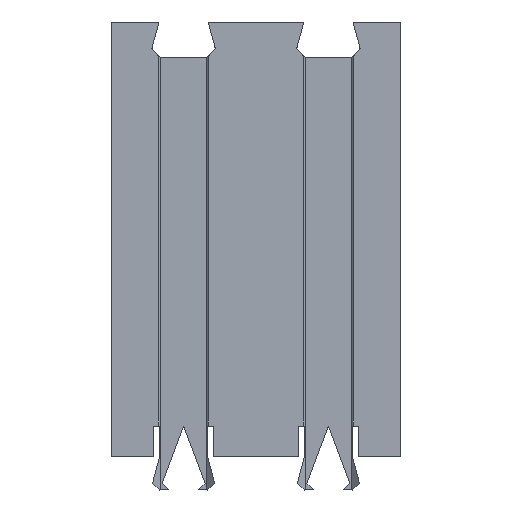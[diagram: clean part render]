
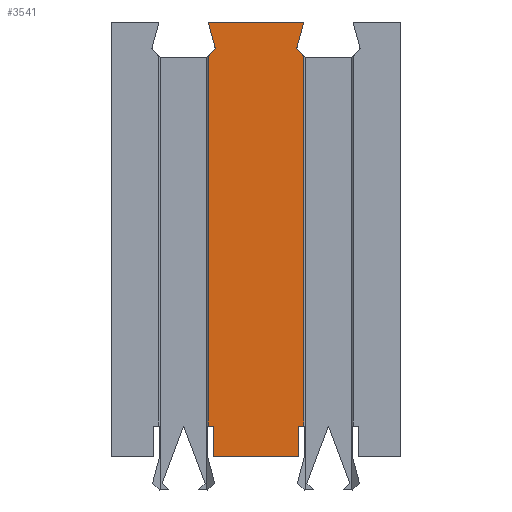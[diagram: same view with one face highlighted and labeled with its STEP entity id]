
A CAD part, top view. The second image highlights one B-rep face of the part: STEP entity #3541.
In plain terms, the highlighted planar face has unit normal (0, 0, 1).
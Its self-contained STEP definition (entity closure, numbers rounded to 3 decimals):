
#205=FACE_OUTER_BOUND('',#409,.T.);
#409=EDGE_LOOP('',(#3064,#3065,#3066,#3067,#3068,#3069,#3070,#3071,#3072,
#3073,#3074,#3075));
#631=LINE('',#5074,#1119);
#648=LINE('',#5107,#1136);
#653=LINE('',#5115,#1141);
#656=LINE('',#5122,#1144);
#658=LINE('',#5125,#1146);
#748=LINE('',#5310,#1236);
#877=LINE('',#5563,#1365);
#892=LINE('',#5592,#1380);
#896=LINE('',#5600,#1384);
#899=LINE('',#5606,#1387);
#900=LINE('',#5610,#1388);
#901=LINE('',#5611,#1389);
#1119=VECTOR('',#4114,10.);
#1136=VECTOR('',#4147,10.);
#1141=VECTOR('',#4158,10.);
#1144=VECTOR('',#4167,10.);
#1146=VECTOR('',#4171,10.);
#1236=VECTOR('',#4345,10.);
#1365=VECTOR('',#4568,10.);
#1380=VECTOR('',#4597,10.);
#1384=VECTOR('',#4605,10.);
#1387=VECTOR('',#4614,10.);
#1388=VECTOR('',#4619,10.);
#1389=VECTOR('',#4620,10.);
#1529=VERTEX_POINT('',#5060);
#1534=VERTEX_POINT('',#5071);
#1535=VERTEX_POINT('',#5073);
#1542=VERTEX_POINT('',#5104);
#1543=VERTEX_POINT('',#5106);
#1544=VERTEX_POINT('',#5121);
#1597=VERTEX_POINT('',#5309);
#1673=VERTEX_POINT('',#5560);
#1674=VERTEX_POINT('',#5562);
#1681=VERTEX_POINT('',#5590);
#1683=VERTEX_POINT('',#5598);
#1684=VERTEX_POINT('',#5609);
#1893=EDGE_CURVE('',#1534,#1535,#631,.T.);
#1910=EDGE_CURVE('',#1542,#1543,#648,.T.);
#1915=EDGE_CURVE('',#1543,#1534,#653,.T.);
#1918=EDGE_CURVE('',#1535,#1544,#656,.T.);
#1920=EDGE_CURVE('',#1544,#1529,#658,.T.);
#2010=EDGE_CURVE('',#1597,#1529,#748,.T.);
#2139=EDGE_CURVE('',#1674,#1673,#877,.T.);
#2154=EDGE_CURVE('',#1681,#1542,#892,.T.);
#2158=EDGE_CURVE('',#1681,#1683,#896,.T.);
#2161=EDGE_CURVE('',#1683,#1674,#899,.T.);
#2162=EDGE_CURVE('',#1673,#1684,#900,.T.);
#2163=EDGE_CURVE('',#1684,#1597,#901,.T.);
#3064=ORIENTED_EDGE('',*,*,#2139,.T.);
#3065=ORIENTED_EDGE('',*,*,#2162,.T.);
#3066=ORIENTED_EDGE('',*,*,#2163,.T.);
#3067=ORIENTED_EDGE('',*,*,#2010,.T.);
#3068=ORIENTED_EDGE('',*,*,#1920,.F.);
#3069=ORIENTED_EDGE('',*,*,#1918,.F.);
#3070=ORIENTED_EDGE('',*,*,#1893,.F.);
#3071=ORIENTED_EDGE('',*,*,#1915,.F.);
#3072=ORIENTED_EDGE('',*,*,#1910,.F.);
#3073=ORIENTED_EDGE('',*,*,#2154,.F.);
#3074=ORIENTED_EDGE('',*,*,#2158,.T.);
#3075=ORIENTED_EDGE('',*,*,#2161,.T.);
#3338=PLANE('',#3746);
#3541=ADVANCED_FACE('',(#205),#3338,.T.);
#3746=AXIS2_PLACEMENT_3D('',#5608,#4617,#4618);
#4114=DIRECTION('',(0.,1.,0.));
#4147=DIRECTION('',(0.,1.,0.));
#4158=DIRECTION('',(-1.,0.,0.));
#4167=DIRECTION('',(0.707,0.707,0.));
#4171=DIRECTION('',(-0.259,0.966,0.));
#4345=DIRECTION('',(-1.,0.,0.));
#4568=DIRECTION('',(0.,1.,0.));
#4597=DIRECTION('',(-1.,0.,0.));
#4605=DIRECTION('',(0.,1.,0.));
#4614=DIRECTION('',(1.,0.,0.));
#4617=DIRECTION('center_axis',(0.,0.,1.));
#4618=DIRECTION('ref_axis',(1.,0.,0.));
#4619=DIRECTION('',(-0.707,0.707,0.));
#4620=DIRECTION('',(0.259,0.966,0.));
#5060=CARTESIAN_POINT('',(-8.3,30.,10.));
#5071=CARTESIAN_POINT('',(-8.3,2.1,10.));
#5073=CARTESIAN_POINT('',(-8.3,27.648,10.));
#5074=CARTESIAN_POINT('',(-8.3,15.174,10.));
#5104=CARTESIAN_POINT('',(-7.95,0.,10.));
#5106=CARTESIAN_POINT('',(-7.95,2.1,10.));
#5107=CARTESIAN_POINT('',(-7.95,2.1,10.));
#5115=CARTESIAN_POINT('',(-8.352,2.1,10.));
#5121=CARTESIAN_POINT('',(-7.803,28.145,10.));
#5122=CARTESIAN_POINT('',(-8.404,27.544,10.));
#5125=CARTESIAN_POINT('',(-7.803,28.145,10.));
#5309=CARTESIAN_POINT('',(-1.7,30.,10.));
#5310=CARTESIAN_POINT('',(-1.7,30.,10.));
#5560=CARTESIAN_POINT('',(-1.7,27.648,10.));
#5562=CARTESIAN_POINT('',(-1.7,2.1,10.));
#5563=CARTESIAN_POINT('',(-1.7,15.174,10.));
#5590=CARTESIAN_POINT('',(-2.05,0.,10.));
#5592=CARTESIAN_POINT('',(-2.25,0.,10.));
#5598=CARTESIAN_POINT('',(-2.05,2.1,10.));
#5600=CARTESIAN_POINT('',(-2.05,2.1,10.));
#5606=CARTESIAN_POINT('',(-1.648,2.1,10.));
#5608=CARTESIAN_POINT('Origin',(0.,0.347,
10.));
#5609=CARTESIAN_POINT('',(-2.197,28.145,10.));
#5610=CARTESIAN_POINT('',(-1.596,27.544,10.));
#5611=CARTESIAN_POINT('',(-2.197,28.145,10.));
